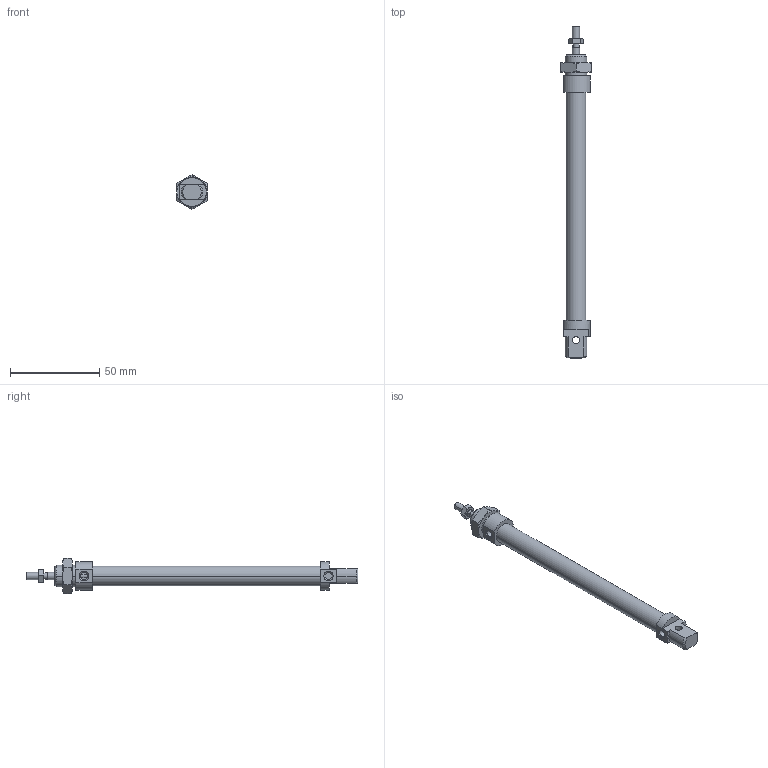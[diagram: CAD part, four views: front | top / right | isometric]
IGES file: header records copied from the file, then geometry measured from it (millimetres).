
Global section: file name: No Iges File Name specified; native system: AutoDesk Inventor R6.0; preprocessor: AutoDesk Inventor Iges Exporter R6.0; author: No Author specified; organization: No Organization specified; date: 20030407.190946; units: millimetre
Bounding box: 17 x 186 x 19.63 mm (x, y, z)
Volume: 19109.6 mm3; surface area: 11210.4 mm2
Topology: 4 solids, 4 shells, 117 faces, 261 edges, 158 vertices
Faces by surface type: cone 38, plane 34, bspline 21, cylinder 18, revolution 6
